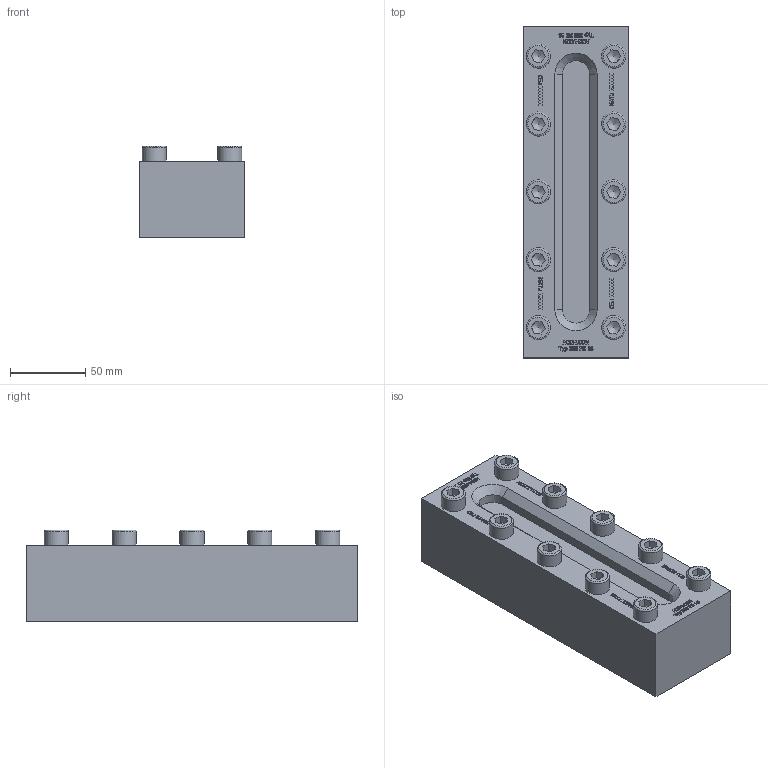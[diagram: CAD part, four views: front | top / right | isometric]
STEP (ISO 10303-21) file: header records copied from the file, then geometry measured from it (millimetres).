
FILE_DESCRIPTION(/* description */ (''),/* implementation_level */ '2;1');
FILE_NAME(/* name */ 'W:\Konstruktion_ACI\330\_Zeichnungen\STEP\ACI-330-220-16.stp',/* time_stamp */ '2022-03-01T17:09:00+01:00',/* author */ ('koslowksi'),/* organization */ (''),/* preprocessor_version */ 'ST-DEVELOPER v16.1',/* originating_system */ 'Autodesk Inventor 2016',/* authorisation */ '');
FILE_SCHEMA (('AUTOMOTIVE_DESIGN { 1 0 10303 214 3 1 1 }'));
Products named in the file (1): ACI-330-220-16.stp
Bounding box: 70 x 220 x 60.9 mm (x, y, z)
Volume: 717462.4 mm3; surface area: 75625 mm2
Topology: 1 solids, 85 shells, 2400 faces, 6340 edges, 4222 vertices
Faces by surface type: plane 1728, bspline 636, cylinder 14, cone 12, torus 10
Full cylindrical faces by diameter (mm): 16 x10
Entity records: 77216 total; most frequent: CARTESIAN_POINT 21281, ORIENTED_EDGE 12580, DIRECTION 8528, EDGE_CURVE 6290, LINE 4918, VECTOR 4918, VERTEX_POINT 4202, EDGE_LOOP 2574
